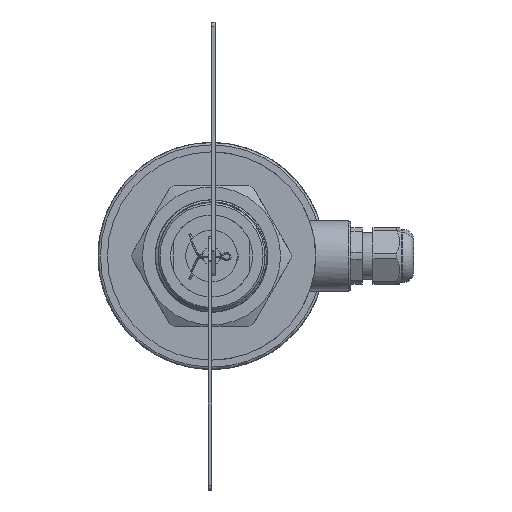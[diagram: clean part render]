
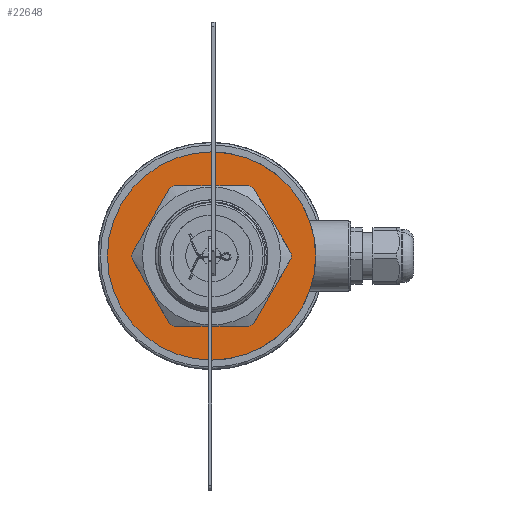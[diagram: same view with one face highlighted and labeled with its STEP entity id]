
A CAD part, front view. The second image highlights one B-rep face of the part: STEP entity #22648.
In plain terms, the highlighted planar face has unit normal (0, -1, 0).
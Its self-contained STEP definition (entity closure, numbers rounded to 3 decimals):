
#1030 = CARTESIAN_POINT ( 'NONE',  ( 0., 281.2, -18. ) ) ;
#1041 = FACE_BOUND ( 'NONE', #6979, .T. ) ;
#1068 = ORIENTED_EDGE ( 'NONE', *, *, #28951, .F. ) ;
#1273 = ORIENTED_EDGE ( 'NONE', *, *, #32950, .T. ) ;
#1569 = DIRECTION ( 'NONE',  ( 0., 1., 0. ) ) ;
#1846 = AXIS2_PLACEMENT_3D ( 'NONE', #21358, #32099, #7988 ) ;
#3647 = ORIENTED_EDGE ( 'NONE', *, *, #6373, .T. ) ;
#6373 = EDGE_CURVE ( 'NONE', #16265, #19335, #32446, .T. ) ;
#6979 = EDGE_LOOP ( 'NONE', ( #3647, #1273 ) ) ;
#7870 = ORIENTED_EDGE ( 'NONE', *, *, #23729, .F. ) ;
#7885 = AXIS2_PLACEMENT_3D ( 'NONE', #25644, #9632, #20371 ) ;
#7988 = DIRECTION ( 'NONE',  ( 0., 0., 1. ) ) ;
#9154 = DIRECTION ( 'NONE',  ( 0., 0., 1. ) ) ;
#9176 = CARTESIAN_POINT ( 'NONE',  ( 0., 281.2, 0. ) ) ;
#9632 = DIRECTION ( 'NONE',  ( 0., 1., 0. ) ) ;
#10971 = CARTESIAN_POINT ( 'NONE',  ( 0., 281.2, 18. ) ) ;
#11807 = PLANE ( 'NONE',  #17956 ) ;
#12327 = DIRECTION ( 'NONE',  ( 0., 0., 1. ) ) ;
#12470 = AXIS2_PLACEMENT_3D ( 'NONE', #9176, #19916, #30655 ) ;
#16265 = VERTEX_POINT ( 'NONE', #10971 ) ;
#17264 = AXIS2_PLACEMENT_3D ( 'NONE', #25686, #1569, #12327 ) ;
#17956 = AXIS2_PLACEMENT_3D ( 'NONE', #22517, #33259, #9154 ) ;
#19335 = VERTEX_POINT ( 'NONE', #1030 ) ;
#19916 = DIRECTION ( 'NONE',  ( 0., 1., 0. ) ) ;
#20371 = DIRECTION ( 'NONE',  ( 0., 0., 1. ) ) ;
#21358 = CARTESIAN_POINT ( 'NONE',  ( 0., 281.2, 0. ) ) ;
#21659 = VERTEX_POINT ( 'NONE', #32280 ) ;
#22517 = CARTESIAN_POINT ( 'NONE',  ( 44.5, 281.2, 0. ) ) ;
#22648 = ADVANCED_FACE ( 'NONE', ( #25158, #1041 ), #11807, .F. ) ;
#23046 = CIRCLE ( 'NONE', #7885, 44.5 ) ;
#23729 = EDGE_CURVE ( 'NONE', #34709, #21659, #23046, .T. ) ;
#25158 = FACE_OUTER_BOUND ( 'NONE', #26345, .T. ) ;
#25644 = CARTESIAN_POINT ( 'NONE',  ( 0., 281.2, 0. ) ) ;
#25686 = CARTESIAN_POINT ( 'NONE',  ( 0., 281.2, 0. ) ) ;
#26345 = EDGE_LOOP ( 'NONE', ( #1068, #7870 ) ) ;
#27629 = CIRCLE ( 'NONE', #12470, 44.5 ) ;
#28802 = CARTESIAN_POINT ( 'NONE',  ( 0., 281.2, -44.5 ) ) ;
#28951 = EDGE_CURVE ( 'NONE', #21659, #34709, #27629, .T. ) ;
#30655 = DIRECTION ( 'NONE',  ( 0., 0., 1. ) ) ;
#32099 = DIRECTION ( 'NONE',  ( 0., 1., 0. ) ) ;
#32210 = CIRCLE ( 'NONE', #1846, 18. ) ;
#32280 = CARTESIAN_POINT ( 'NONE',  ( 0., 281.2, 44.5 ) ) ;
#32446 = CIRCLE ( 'NONE', #17264, 18. ) ;
#32950 = EDGE_CURVE ( 'NONE', #19335, #16265, #32210, .T. ) ;
#33259 = DIRECTION ( 'NONE',  ( 0., 1., 0. ) ) ;
#34709 = VERTEX_POINT ( 'NONE', #28802 ) ;
